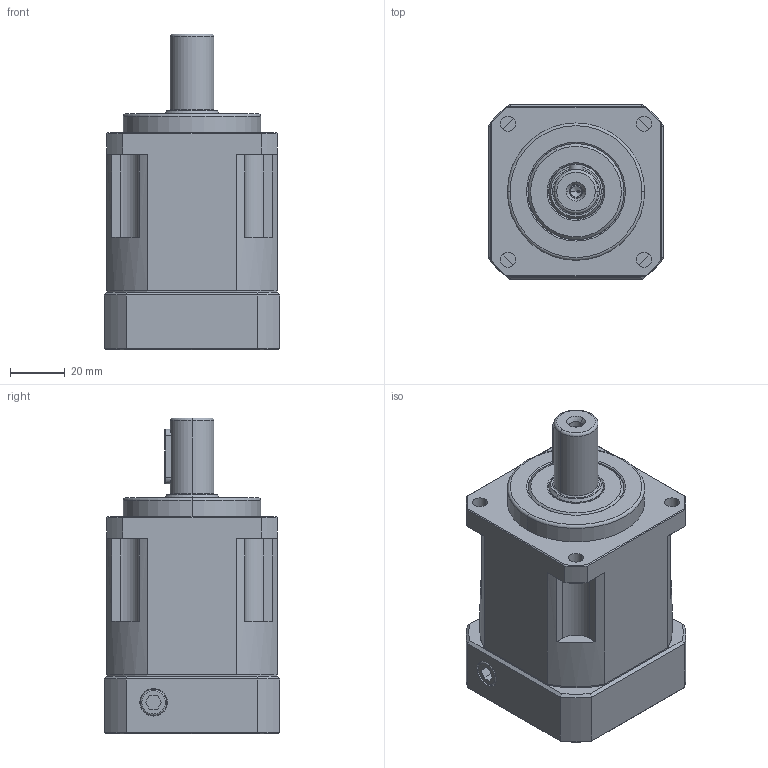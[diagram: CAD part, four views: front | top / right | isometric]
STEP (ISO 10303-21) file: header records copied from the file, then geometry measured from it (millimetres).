
FILE_DESCRIPTION (( 'STEP AP203' ), '1' );
FILE_NAME ('SB62-1-50M4.step', '2021-11-08T05:24:22', ( '' ), ( '' ), 'SwSTEP 2.0', 'SolidWorks 2020', '' );
FILE_SCHEMA (( 'CONFIG_CONTROL_DESIGN' ));
Length unit declared in the file: millimetre
Products named in the file (1): SB62-1-50M4
Bounding box: 64 x 64 x 115 mm (x, y, z)
Volume: 251574.7 mm3; surface area: 53595.5 mm2
Topology: 2 solids, 15 shells, 674 faces, 1605 edges, 974 vertices
Faces by surface type: plane 292, cylinder 195, cone 154, torus 31, bspline 2
Entity records: 19780 total; most frequent: CARTESIAN_POINT 3898, DIRECTION 3519, ORIENTED_EDGE 3142, EDGE_CURVE 1571, AXIS2_PLACEMENT_3D 1375, VERTEX_POINT 974, VECTOR 769, LINE 769
